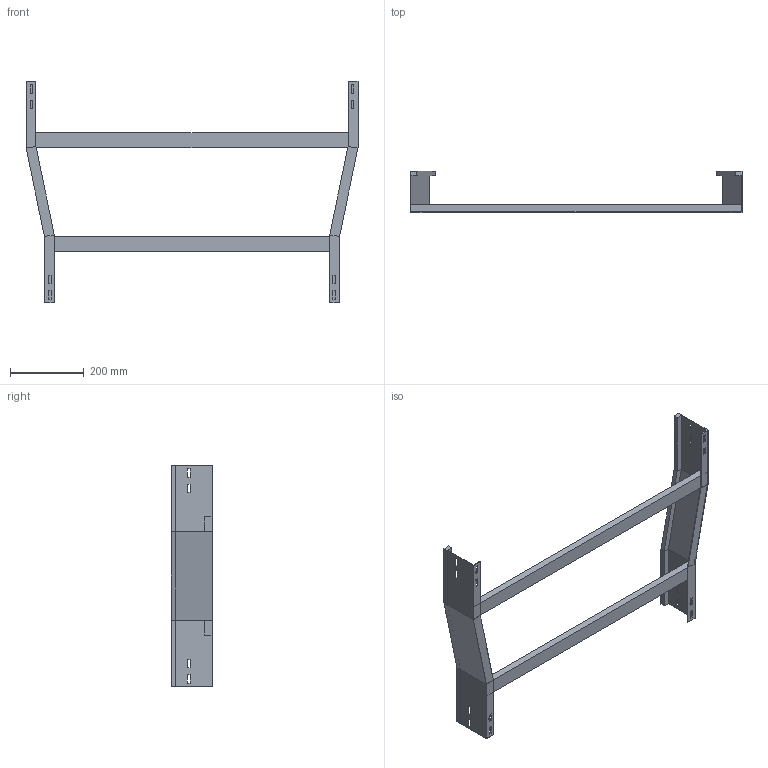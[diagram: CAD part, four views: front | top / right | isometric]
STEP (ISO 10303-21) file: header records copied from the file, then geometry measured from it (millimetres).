
FILE_DESCRIPTION (( 'STEP AP214' ), '1' );
FILE_NAME ('B2X20B8J900XX.step', '2025-09-02T17:15:49', ( '' ), ( '' ), 'SwSTEP 2.0', 'SolidWorks 2023', '' );
FILE_SCHEMA (( 'AUTOMOTIVE_DESIGN' ));
Length unit declared in the file: millimetre
Products named in the file (4): TRAVERSINO_900; SPONDA RID. CENTRALE 900-800_H112.5; B2X20B8J900XX; TRAVERSINO_800
Assembly tree (3 placements, depth 2):
  B2X20B8J900XX
    SPONDA RID. CENTRALE 900-800_H112.5
    TRAVERSINO_800
    TRAVERSINO_900
Bounding box: 900 x 112.5 x 600 mm (x, y, z)
Volume: 1930804.9 mm3; surface area: 583173.2 mm2
Topology: 4 solids, 4 shells, 128 faces, 328 edges, 208 vertices
Faces by surface type: plane 128
Entity records: 3950 total; most frequent: CARTESIAN_POINT 670, ORIENTED_EDGE 656, DIRECTION 596, VECTOR 328, LINE 328, EDGE_CURVE 328, VERTEX_POINT 208, EDGE_LOOP 160
